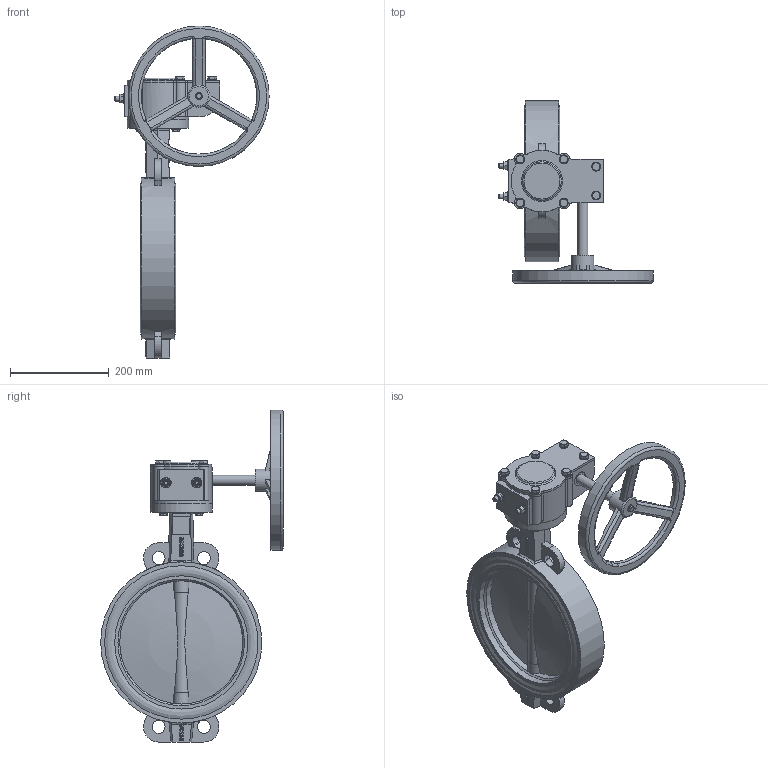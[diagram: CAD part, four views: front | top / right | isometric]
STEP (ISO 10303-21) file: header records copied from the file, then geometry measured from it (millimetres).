
FILE_DESCRIPTION(('STEP AP242'), '1');
FILE_NAME('Ïîâîðîòíûé çàòâîð ïîä ýëåêòðîïðèâîä', '', ('UNSPECIFIED'), ('UNSPECIFIED'), 'C3D Converter', 'C3D Toolkit', '');
FILE_SCHEMA(('AP242_MANAGED_MODEL_BASED_3D_ENGINEERING_MIM_LF { 1 0 10303 442 1 1 4 }'));
Length unit declared in the file: millimetre
Products named in the file (17): П
Assembly tree (36 placements, depth 3):
  (unnamed)
    (unnamed)
    П  x2
    (unnamed)
    (unnamed)
    (unnamed)
    (unnamed)
      (unnamed)
      (unnamed)
      (unnamed)
      (unnamed)
      (unnamed)  x6
      (unnamed)  x6
      (unnamed)
      (unnamed)  x2
      (unnamed)  x2
    (unnamed)  x4
    (unnamed)  x4
Bounding box: 313 x 370.5 x 673.5 mm (x, y, z)
Volume: 5722016.9 mm3; surface area: 1000621.1 mm2
Topology: 35 solids, 35 shells, 830 faces, 2003 edges, 1294 vertices
Faces by surface type: plane 393, extrusion 151, cylinder 149, bspline 60, cone 44, torus 29, sphere 4
Full cylindrical faces by diameter (mm): 6 x2, 8 x4, 8.917 x2, 10 x26, 10.5 x10, 11.421 x1, 12 x4, 18 x10, 20 x3, 27 x6, 30 x2, 32.11 x4, 38.184 x5, 45 x1, 125 x2, 235 x1, 245 x1, 250 x1, 256.76 x2, 270.28 x2, 275 x1, 285 x1, 290.753 x4, 311.227 x4, 327 x1
Entity records: 33862 total; most frequent: CARTESIAN_POINT 15721, ORIENTED_EDGE 3140, DIRECTION 2469, EDGE_CURVE 1570, VERTEX_POINT 1088, EDGE_LOOP 864, VECTOR 845, AXIS2_PLACEMENT_3D 812
